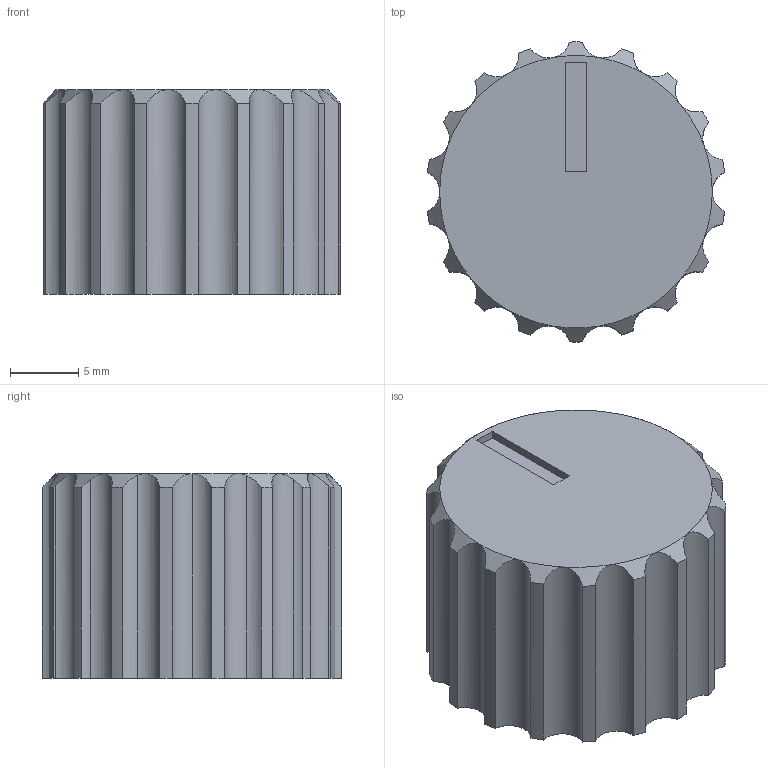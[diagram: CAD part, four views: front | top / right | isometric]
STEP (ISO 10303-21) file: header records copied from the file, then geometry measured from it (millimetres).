
FILE_DESCRIPTION(('FreeCAD Model'),'2;1');
FILE_NAME('Open CASCADE Shape Model','2026-10-21T11:20:03',('Author'),( ''),'Open CASCADE STEP processor 7.9','FreeCAD','Unknown');
FILE_SCHEMA(('AUTOMOTIVE_DESIGN { 1 0 10303 214 1 1 1 1 }'));
Length unit declared in the file: millimetre
Products named in the file (1): TwistIt_Knob
Bounding box: 21.81 x 22 x 15 mm (x, y, z)
Volume: 4396.7 mm3; surface area: 2216.8 mm2
Topology: 1 solids, 1 shells, 72 faces, 182 edges, 115 vertices
Faces by surface type: cylinder 45, cone 18, plane 9
Full cylindrical faces by diameter (mm): 6 x1, 13 x1
Entity records: 4526 total; most frequent: CARTESIAN_POINT 2793, DIRECTION 369, ORIENTED_EDGE 364, EDGE_CURVE 182, AXIS2_PLACEMENT_3D 156, VERTEX_POINT 115, CIRCLE 83, FACE_BOUND 75
